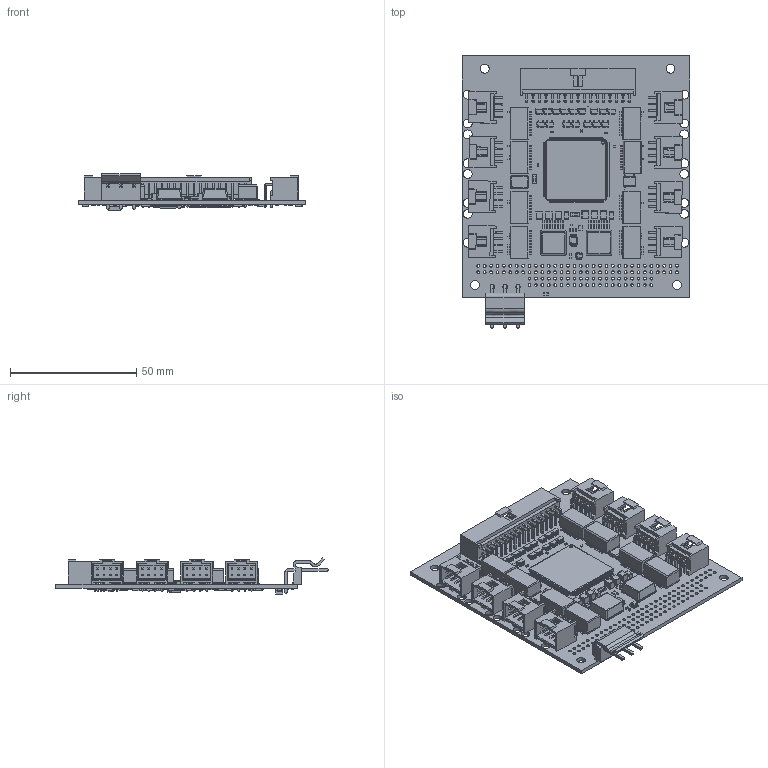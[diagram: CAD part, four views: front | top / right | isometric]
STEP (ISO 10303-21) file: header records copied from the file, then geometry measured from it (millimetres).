
FILE_DESCRIPTION (( 'STEP AP214' ), '1' );
FILE_NAME ('ESW-104-06.STEP', '2024-09-10T10:45:10', ( '' ), ( '' ), 'SwSTEP 2.0', 'SolidWorks 2022', '' );
FILE_SCHEMA (( 'AUTOMOTIVE_DESIGN' ));
Length unit declared in the file: millimetre
Products named in the file (1): ESW-104-06
Bounding box: 90.17 x 107.87 x 14.38 mm (x, y, z)
Surface area: 38126.3 mm2 (no closed solid volume)
Topology: 0 solids, 1573 shells, 7940 faces, 28681 edges, 22022 vertices
Faces by surface type: plane 6939, cylinder 967, bspline 23, sphere 6, torus 5
Full cylindrical faces by diameter (mm): 0.141 x1, 0.4 x15, 1 x14, 1.09 x104, 1.57 x1, 1.62 x1, 1.65 x2, 1.8 x3, 3.5 x20
Entity records: 386180 total; most frequent: CARTESIAN_POINT 62177, DIRECTION 47507, ORIENTED_EDGE 39568, EDGE_CURVE 28514, VECTOR 23495, LINE 23495, VERTEX_POINT 22020, AXIS2_PLACEMENT_3D 12006
